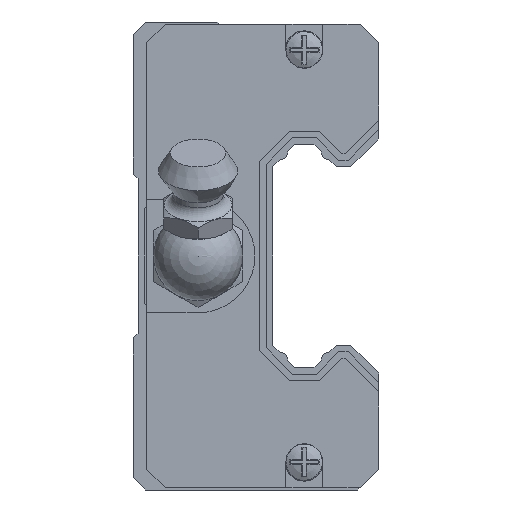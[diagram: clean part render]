
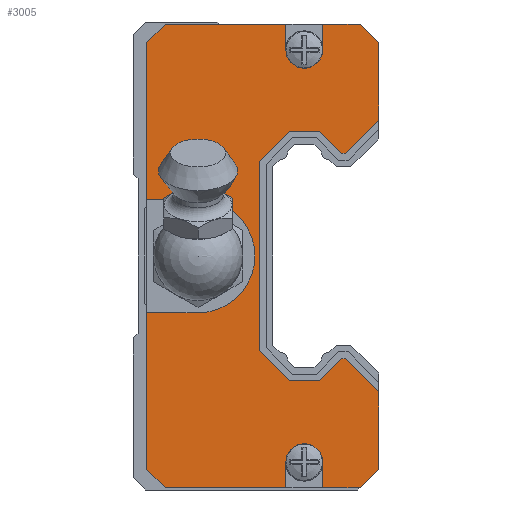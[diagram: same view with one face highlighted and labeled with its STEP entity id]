
A CAD part, left-side view. The second image highlights one B-rep face of the part: STEP entity #3005.
In plain terms, the highlighted planar face has unit normal (-1, 0, 0) as drawn and (1, 0, 0) by its records, which use the part's own axes.
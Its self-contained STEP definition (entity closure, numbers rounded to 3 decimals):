
#2894 = VERTEX_POINT('',#2895);
#2895 = CARTESIAN_POINT('',(2.,6.,12.197));
#2901 = EDGE_CURVE('',#2902,#2894,#2904,.T.);
#2902 = VERTEX_POINT('',#2903);
#2903 = CARTESIAN_POINT('',(2.,6.,19.15));
#2904 = LINE('',#2905,#2906);
#2905 = CARTESIAN_POINT('',(2.,6.,19.15));
#2906 = VECTOR('',#2907,1.);
#2907 = DIRECTION('',(0.,0.,-1.));
#2980 = VERTEX_POINT('',#2981);
#2981 = CARTESIAN_POINT('',(2.,6.,-19.15));
#2987 = EDGE_CURVE('',#2988,#2980,#2990,.T.);
#2988 = VERTEX_POINT('',#2989);
#2989 = CARTESIAN_POINT('',(2.,6.,-12.197));
#2990 = LINE('',#2991,#2992);
#2991 = CARTESIAN_POINT('',(2.,6.,19.15));
#2992 = VECTOR('',#2993,1.);
#2993 = DIRECTION('',(0.,0.,-1.));
#3005 = ADVANCED_FACE('',(#3006),#3249,.T.);
#3006 = FACE_BOUND('',#3007,.T.);
#3007 = EDGE_LOOP('',(#3008,#3016,#3024,#3032,#3040,#3048,#3056,#3064,
    #3072,#3080,#3088,#3094,#3095,#3103,#3111,#3119,#3128,#3136,#3144,
    #3152,#3160,#3168,#3177,#3185,#3193,#3201,#3209,#3217,#3226,#3234,
    #3242,#3248));
#3008 = ORIENTED_EDGE('',*,*,#3009,.F.);
#3009 = EDGE_CURVE('',#3010,#2894,#3012,.T.);
#3010 = VERTEX_POINT('',#3011);
#3011 = CARTESIAN_POINT('',(2.,8.992,9.205));
#3012 = LINE('',#3013,#3014);
#3013 = CARTESIAN_POINT('',(2.,8.992,9.205));
#3014 = VECTOR('',#3015,1.);
#3015 = DIRECTION('',(0.,-0.707,0.707));
#3016 = ORIENTED_EDGE('',*,*,#3017,.F.);
#3017 = EDGE_CURVE('',#3018,#3010,#3020,.T.);
#3018 = VERTEX_POINT('',#3019);
#3019 = CARTESIAN_POINT('',(2.,9.303,9.205));
#3020 = LINE('',#3021,#3022);
#3021 = CARTESIAN_POINT('',(2.,9.303,9.205));
#3022 = VECTOR('',#3023,1.);
#3023 = DIRECTION('',(0.,-1.,0.));
#3024 = ORIENTED_EDGE('',*,*,#3025,.F.);
#3025 = EDGE_CURVE('',#3026,#3018,#3028,.T.);
#3026 = VERTEX_POINT('',#3027);
#3027 = CARTESIAN_POINT('',(2.,11.298,11.2));
#3028 = LINE('',#3029,#3030);
#3029 = CARTESIAN_POINT('',(2.,11.298,11.2));
#3030 = VECTOR('',#3031,1.);
#3031 = DIRECTION('',(0.,-0.707,-0.707));
#3032 = ORIENTED_EDGE('',*,*,#3033,.F.);
#3033 = EDGE_CURVE('',#3034,#3026,#3036,.T.);
#3034 = VERTEX_POINT('',#3035);
#3035 = CARTESIAN_POINT('',(2.,14.002,11.2));
#3036 = LINE('',#3037,#3038);
#3037 = CARTESIAN_POINT('',(2.,14.002,11.2));
#3038 = VECTOR('',#3039,1.);
#3039 = DIRECTION('',(0.,-1.,0.));
#3040 = ORIENTED_EDGE('',*,*,#3041,.F.);
#3041 = EDGE_CURVE('',#3042,#3034,#3044,.T.);
#3042 = VERTEX_POINT('',#3043);
#3043 = CARTESIAN_POINT('',(2.,16.7,8.502));
#3044 = LINE('',#3045,#3046);
#3045 = CARTESIAN_POINT('',(2.,16.7,8.502));
#3046 = VECTOR('',#3047,1.);
#3047 = DIRECTION('',(0.,-0.707,0.707));
#3048 = ORIENTED_EDGE('',*,*,#3049,.F.);
#3049 = EDGE_CURVE('',#3050,#3042,#3052,.T.);
#3050 = VERTEX_POINT('',#3051);
#3051 = CARTESIAN_POINT('',(2.,16.7,-8.502));
#3052 = LINE('',#3053,#3054);
#3053 = CARTESIAN_POINT('',(2.,16.7,-8.502));
#3054 = VECTOR('',#3055,1.);
#3055 = DIRECTION('',(0.,0.,1.));
#3056 = ORIENTED_EDGE('',*,*,#3057,.F.);
#3057 = EDGE_CURVE('',#3058,#3050,#3060,.T.);
#3058 = VERTEX_POINT('',#3059);
#3059 = CARTESIAN_POINT('',(2.,14.002,-11.2));
#3060 = LINE('',#3061,#3062);
#3061 = CARTESIAN_POINT('',(2.,14.002,-11.2));
#3062 = VECTOR('',#3063,1.);
#3063 = DIRECTION('',(0.,0.707,0.707));
#3064 = ORIENTED_EDGE('',*,*,#3065,.F.);
#3065 = EDGE_CURVE('',#3066,#3058,#3068,.T.);
#3066 = VERTEX_POINT('',#3067);
#3067 = CARTESIAN_POINT('',(2.,11.298,-11.2));
#3068 = LINE('',#3069,#3070);
#3069 = CARTESIAN_POINT('',(2.,11.298,-11.2));
#3070 = VECTOR('',#3071,1.);
#3071 = DIRECTION('',(0.,1.,0.));
#3072 = ORIENTED_EDGE('',*,*,#3073,.F.);
#3073 = EDGE_CURVE('',#3074,#3066,#3076,.T.);
#3074 = VERTEX_POINT('',#3075);
#3075 = CARTESIAN_POINT('',(2.,9.303,-9.205));
#3076 = LINE('',#3077,#3078);
#3077 = CARTESIAN_POINT('',(2.,9.303,-9.205));
#3078 = VECTOR('',#3079,1.);
#3079 = DIRECTION('',(0.,0.707,-0.707));
#3080 = ORIENTED_EDGE('',*,*,#3081,.F.);
#3081 = EDGE_CURVE('',#3082,#3074,#3084,.T.);
#3082 = VERTEX_POINT('',#3083);
#3083 = CARTESIAN_POINT('',(2.,8.992,-9.205));
#3084 = LINE('',#3085,#3086);
#3085 = CARTESIAN_POINT('',(2.,8.992,-9.205));
#3086 = VECTOR('',#3087,1.);
#3087 = DIRECTION('',(0.,1.,0.));
#3088 = ORIENTED_EDGE('',*,*,#3089,.F.);
#3089 = EDGE_CURVE('',#2988,#3082,#3090,.T.);
#3090 = LINE('',#3091,#3092);
#3091 = CARTESIAN_POINT('',(2.,6.,-12.197));
#3092 = VECTOR('',#3093,1.);
#3093 = DIRECTION('',(0.,0.707,0.707));
#3094 = ORIENTED_EDGE('',*,*,#2987,.T.);
#3095 = ORIENTED_EDGE('',*,*,#3096,.T.);
#3096 = EDGE_CURVE('',#2980,#3097,#3099,.T.);
#3097 = VERTEX_POINT('',#3098);
#3098 = CARTESIAN_POINT('',(2.,7.65,-20.8));
#3099 = LINE('',#3100,#3101);
#3100 = CARTESIAN_POINT('',(2.,6.,-19.15));
#3101 = VECTOR('',#3102,1.);
#3102 = DIRECTION('',(0.,0.707,-0.707));
#3103 = ORIENTED_EDGE('',*,*,#3104,.T.);
#3104 = EDGE_CURVE('',#3097,#3105,#3107,.T.);
#3105 = VERTEX_POINT('',#3106);
#3106 = CARTESIAN_POINT('',(2.,11.021,-20.8));
#3107 = LINE('',#3108,#3109);
#3108 = CARTESIAN_POINT('',(2.,7.65,-20.8));
#3109 = VECTOR('',#3110,1.);
#3110 = DIRECTION('',(0.,1.,0.));
#3111 = ORIENTED_EDGE('',*,*,#3112,.F.);
#3112 = EDGE_CURVE('',#3113,#3105,#3115,.T.);
#3113 = VERTEX_POINT('',#3114);
#3114 = CARTESIAN_POINT('',(2.,11.021,-18.5));
#3115 = LINE('',#3116,#3117);
#3116 = CARTESIAN_POINT('',(2.,11.021,-18.5));
#3117 = VECTOR('',#3118,1.);
#3118 = DIRECTION('',(0.,0.,-1.));
#3119 = ORIENTED_EDGE('',*,*,#3120,.F.);
#3120 = EDGE_CURVE('',#3121,#3113,#3123,.T.);
#3121 = VERTEX_POINT('',#3122);
#3122 = CARTESIAN_POINT('',(2.,14.319,-18.5));
#3123 = CIRCLE('',#3124,1.649);
#3124 = AXIS2_PLACEMENT_3D('',#3125,#3126,#3127);
#3125 = CARTESIAN_POINT('',(2.,12.67,-18.5));
#3126 = DIRECTION('',(1.,0.,0.));
#3127 = DIRECTION('',(0.,0.,-1.));
#3128 = ORIENTED_EDGE('',*,*,#3129,.F.);
#3129 = EDGE_CURVE('',#3130,#3121,#3132,.T.);
#3130 = VERTEX_POINT('',#3131);
#3131 = CARTESIAN_POINT('',(2.,14.319,-20.8));
#3132 = LINE('',#3133,#3134);
#3133 = CARTESIAN_POINT('',(2.,14.319,0.));
#3134 = VECTOR('',#3135,1.);
#3135 = DIRECTION('',(0.,0.,1.));
#3136 = ORIENTED_EDGE('',*,*,#3137,.T.);
#3137 = EDGE_CURVE('',#3130,#3138,#3140,.T.);
#3138 = VERTEX_POINT('',#3139);
#3139 = CARTESIAN_POINT('',(2.,25.15,-20.8));
#3140 = LINE('',#3141,#3142);
#3141 = CARTESIAN_POINT('',(2.,7.65,-20.8));
#3142 = VECTOR('',#3143,1.);
#3143 = DIRECTION('',(0.,1.,0.));
#3144 = ORIENTED_EDGE('',*,*,#3145,.T.);
#3145 = EDGE_CURVE('',#3138,#3146,#3148,.T.);
#3146 = VERTEX_POINT('',#3147);
#3147 = CARTESIAN_POINT('',(2.,26.8,-19.15));
#3148 = LINE('',#3149,#3150);
#3149 = CARTESIAN_POINT('',(2.,25.15,-20.8));
#3150 = VECTOR('',#3151,1.);
#3151 = DIRECTION('',(0.,0.707,0.707));
#3152 = ORIENTED_EDGE('',*,*,#3153,.T.);
#3153 = EDGE_CURVE('',#3146,#3154,#3156,.T.);
#3154 = VERTEX_POINT('',#3155);
#3155 = CARTESIAN_POINT('',(2.,26.8,-5.1));
#3156 = LINE('',#3157,#3158);
#3157 = CARTESIAN_POINT('',(2.,26.8,-19.15));
#3158 = VECTOR('',#3159,1.);
#3159 = DIRECTION('',(0.,0.,1.));
#3160 = ORIENTED_EDGE('',*,*,#3161,.F.);
#3161 = EDGE_CURVE('',#3162,#3154,#3164,.T.);
#3162 = VERTEX_POINT('',#3163);
#3163 = CARTESIAN_POINT('',(2.,22.2,-5.1));
#3164 = LINE('',#3165,#3166);
#3165 = CARTESIAN_POINT('',(2.,22.2,-5.1));
#3166 = VECTOR('',#3167,1.);
#3167 = DIRECTION('',(0.,1.,0.));
#3168 = ORIENTED_EDGE('',*,*,#3169,.F.);
#3169 = EDGE_CURVE('',#3170,#3162,#3172,.T.);
#3170 = VERTEX_POINT('',#3171);
#3171 = CARTESIAN_POINT('',(2.,22.2,5.1));
#3172 = CIRCLE('',#3173,5.1);
#3173 = AXIS2_PLACEMENT_3D('',#3174,#3175,#3176);
#3174 = CARTESIAN_POINT('',(2.,22.2,0.));
#3175 = DIRECTION('',(1.,0.,0.));
#3176 = DIRECTION('',(0.,0.,-1.));
#3177 = ORIENTED_EDGE('',*,*,#3178,.F.);
#3178 = EDGE_CURVE('',#3179,#3170,#3181,.T.);
#3179 = VERTEX_POINT('',#3180);
#3180 = CARTESIAN_POINT('',(2.,26.8,5.1));
#3181 = LINE('',#3182,#3183);
#3182 = CARTESIAN_POINT('',(2.,26.8,5.1));
#3183 = VECTOR('',#3184,1.);
#3184 = DIRECTION('',(0.,-1.,0.));
#3185 = ORIENTED_EDGE('',*,*,#3186,.T.);
#3186 = EDGE_CURVE('',#3179,#3187,#3189,.T.);
#3187 = VERTEX_POINT('',#3188);
#3188 = CARTESIAN_POINT('',(2.,26.8,19.15));
#3189 = LINE('',#3190,#3191);
#3190 = CARTESIAN_POINT('',(2.,26.8,-19.15));
#3191 = VECTOR('',#3192,1.);
#3192 = DIRECTION('',(0.,0.,1.));
#3193 = ORIENTED_EDGE('',*,*,#3194,.T.);
#3194 = EDGE_CURVE('',#3187,#3195,#3197,.T.);
#3195 = VERTEX_POINT('',#3196);
#3196 = CARTESIAN_POINT('',(2.,25.15,20.8));
#3197 = LINE('',#3198,#3199);
#3198 = CARTESIAN_POINT('',(2.,26.8,19.15));
#3199 = VECTOR('',#3200,1.);
#3200 = DIRECTION('',(0.,-0.707,0.707));
#3201 = ORIENTED_EDGE('',*,*,#3202,.T.);
#3202 = EDGE_CURVE('',#3195,#3203,#3205,.T.);
#3203 = VERTEX_POINT('',#3204);
#3204 = CARTESIAN_POINT('',(2.,14.319,20.8));
#3205 = LINE('',#3206,#3207);
#3206 = CARTESIAN_POINT('',(2.,25.15,20.8));
#3207 = VECTOR('',#3208,1.);
#3208 = DIRECTION('',(0.,-1.,0.));
#3209 = ORIENTED_EDGE('',*,*,#3210,.F.);
#3210 = EDGE_CURVE('',#3211,#3203,#3213,.T.);
#3211 = VERTEX_POINT('',#3212);
#3212 = CARTESIAN_POINT('',(2.,14.319,18.5));
#3213 = LINE('',#3214,#3215);
#3214 = CARTESIAN_POINT('',(2.,14.319,18.5));
#3215 = VECTOR('',#3216,1.);
#3216 = DIRECTION('',(0.,0.,1.));
#3217 = ORIENTED_EDGE('',*,*,#3218,.F.);
#3218 = EDGE_CURVE('',#3219,#3211,#3221,.T.);
#3219 = VERTEX_POINT('',#3220);
#3220 = CARTESIAN_POINT('',(2.,11.021,18.5));
#3221 = CIRCLE('',#3222,1.649);
#3222 = AXIS2_PLACEMENT_3D('',#3223,#3224,#3225);
#3223 = CARTESIAN_POINT('',(2.,12.67,18.5));
#3224 = DIRECTION('',(1.,0.,0.));
#3225 = DIRECTION('',(0.,0.,-1.));
#3226 = ORIENTED_EDGE('',*,*,#3227,.F.);
#3227 = EDGE_CURVE('',#3228,#3219,#3230,.T.);
#3228 = VERTEX_POINT('',#3229);
#3229 = CARTESIAN_POINT('',(2.,11.021,20.8));
#3230 = LINE('',#3231,#3232);
#3231 = CARTESIAN_POINT('',(2.,11.021,20.8));
#3232 = VECTOR('',#3233,1.);
#3233 = DIRECTION('',(0.,0.,-1.));
#3234 = ORIENTED_EDGE('',*,*,#3235,.T.);
#3235 = EDGE_CURVE('',#3228,#3236,#3238,.T.);
#3236 = VERTEX_POINT('',#3237);
#3237 = CARTESIAN_POINT('',(2.,7.65,20.8));
#3238 = LINE('',#3239,#3240);
#3239 = CARTESIAN_POINT('',(2.,25.15,20.8));
#3240 = VECTOR('',#3241,1.);
#3241 = DIRECTION('',(0.,-1.,0.));
#3242 = ORIENTED_EDGE('',*,*,#3243,.T.);
#3243 = EDGE_CURVE('',#3236,#2902,#3244,.T.);
#3244 = LINE('',#3245,#3246);
#3245 = CARTESIAN_POINT('',(2.,7.65,20.8));
#3246 = VECTOR('',#3247,1.);
#3247 = DIRECTION('',(0.,-0.707,-0.707));
#3248 = ORIENTED_EDGE('',*,*,#2901,.T.);
#3249 = PLANE('',#3250);
#3250 = AXIS2_PLACEMENT_3D('',#3251,#3252,#3253);
#3251 = CARTESIAN_POINT('',(2.,0.,0.));
#3252 = DIRECTION('',(1.,0.,0.));
#3253 = DIRECTION('',(0.,0.,1.));
